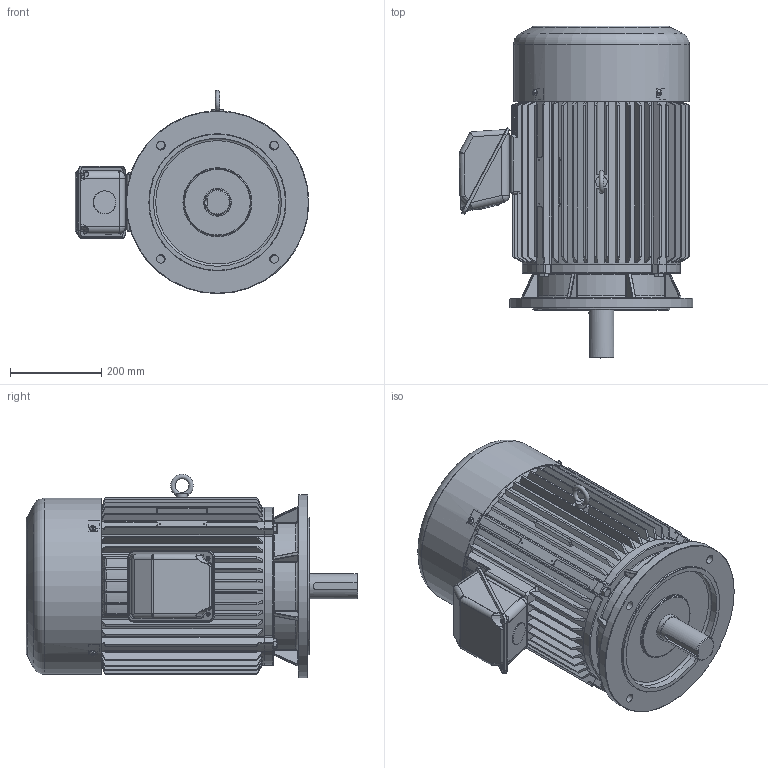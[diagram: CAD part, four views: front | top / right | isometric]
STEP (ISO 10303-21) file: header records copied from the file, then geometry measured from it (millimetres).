
FILE_DESCRIPTION(/* description */ ('Unknown'),/* implementation_level */ '2;1');
FILE_NAME(/* name */ '1-SMA-33838_외형도(330DIA)',/* time_stamp */ '2026-07-24T09:15:23+09:00',/* author */ ('Unknown'),/* organization */ ('Unknown'),/* preprocessor_version */ 'ST-DEVELOPER v16',/* originating_system */ 'DEX',/* authorisation */ $);
FILE_SCHEMA (('AUTOMOTIVE_DESIGN {1 0 10303 214 3 1 1}'));
Products named in the file (19): 1-SMA-33838_寇屈档(330DIx悇B; 2-SMA-33839_FRAME(330DIA); 3-SMA-31055_擅粽塭鰍(330D; 4-SMA-31050_菴粽塭鰍(330D; 5-SMA-31051A_SHAFT(330DIA); 6-SMA-31247_FAN(330DIA); 7-SMA-31053-1_FAN COVER(330DIA); I獐お M12x1.75x22; 幫陝獐お M12x1.75x1; 18.5~37kW_攪嘐割 夢蝶(300~330; T-BOX憶っ(300~330DIA; 18.5~37kW_堅鼠ぬ韁(300~330D; 褊濠 菅斬 該葬 獐お M5x; 9-SMA-33053_T-BOX(ж); 8-SMA-33052_T-BOX(鼻); ｽﾊﾀﾚ ｵﾕｱﾙ ｸﾓｸｮ ｺｼﾆｮ M8x1; 6312ZZ; 6311ZZ; 蹴辨 S5
Assembly tree (29 placements, depth 3):
  1-SMA-33838_寇屈档(330DIx悇B
    2-SMA-33839_FRAME(330DIA)
    3-SMA-31055_擅粽塭鰍(330D
    4-SMA-31050_菴粽塭鰍(330D
    5-SMA-31051A_SHAFT(330DIA)
    6-SMA-31247_FAN(330DIA)
    7-SMA-31053-1_FAN COVER(330DIA)
    I獐お M12x1.75x22
    幫陝獐お M12x1.75x1  x8
    18.5~37kW_攪嘐割 夢蝶(300~330
      T-BOX憶っ(300~330DIA
      18.5~37kW_堅鼠ぬ韁(300~330D
      褊濠 菅斬 該葬 獐お M5x  x2
      9-SMA-33053_T-BOX(ж)
      8-SMA-33052_T-BOX(鼻)
    ｽﾊﾀﾚ ｵﾕｱﾙ ｸﾓｸｮ ｺｼﾆｮ M8x1  x4
    6312ZZ
    6311ZZ
    蹴辨 S5
Bounding box: 511.21 x 725.99 x 444.99 mm (x, y, z)
Volume: 13797338.1 mm3; surface area: 3642535.2 mm2
Topology: 50 solids, 50 shells, 2578 faces, 6414 edges, 3942 vertices
Faces by surface type: cylinder 826, plane 772, cone 459, bspline 268, torus 209, sphere 44
Full cylindrical faces by diameter (mm): 2.2 x4, 2.5 x2, 4.134 x2, 4.917 x2, 5 x2, 6 x2, 6.647 x1, 7 x2, 8 x14, 9 x2, 10.106 x17, 12 x18, 14 x12, 19 x4, 25 x1, 50 x4, 54.8 x1, 55 x3, 55.8 x1, 59.8 x1, 60 x2, 60.8 x1, 65.1 x1, 68 x2, 69 x1, 72 x1, 73.571 x2, 73.971 x2, 76 x1, 77 x2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
Entity records: 100597 total; most frequent: CARTESIAN_POINT 39001, ORIENTED_EDGE 11180, DIRECTION 10848, EDGE_CURVE 5590, AXIS2_PLACEMENT_3D 4423, VERTEX_POINT 3599, FACE_BOUND 2777, EDGE_LOOP 2748
